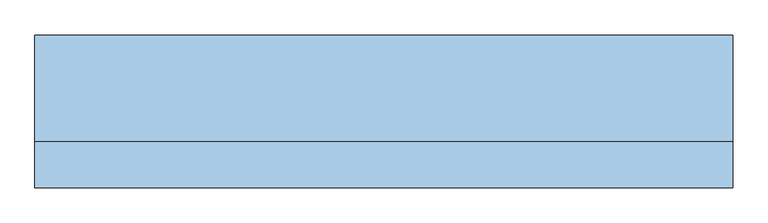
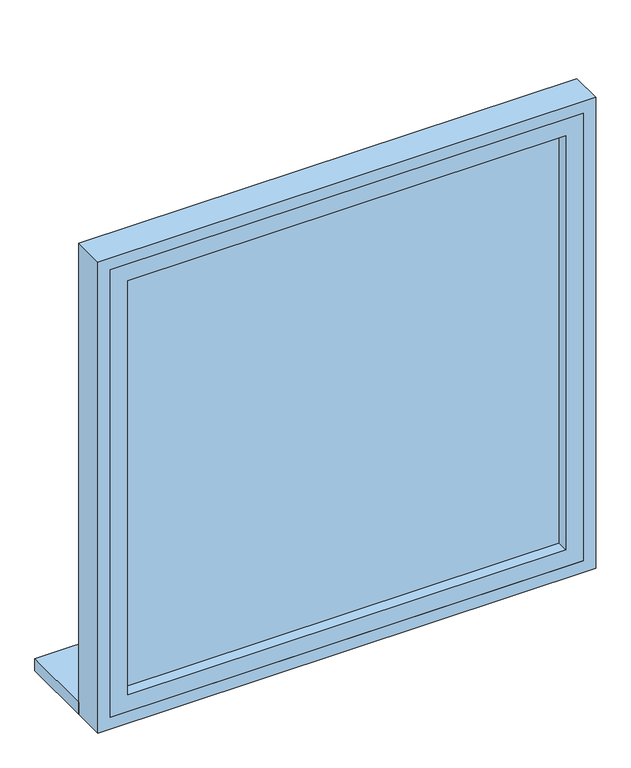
"""IFC4 building model written with IfcOpenShell, lengths in millimetres: window geometry, AT Fenster 1-flügelig drehkipp : 1200/1000 Kellerfenster."""

from ifc_helpers import new_model, si_unit, frame, origin, place, context, project, spatial, polyline, outline, extrude, source, transform, mapped, element, save


def window_b9e24ea9(model_context):
    return source(origin(), model_context, "Body", "SweptSolid", [
        extrude(outline(polyline([(500.0, 26.9623738), (-500.0, 26.9623738), (-500.0, 180.0), (500.0, 180.0), (500.0, 26.9623738)])), frame((0.0, 0.0, 1200.0), z_axis=(0.0, 0.0, 1.0), x_axis=(1.0, 0.0, 0.0)), (0.0, 0.0, 1.0), 25.0),
        extrude(outline(polyline([(2175.0, -475.0), (1225.0, -475.0), (1225.0, 475.0), (2175.0, 475.0), (2175.0, -475.0)]), holes=[polyline([(2140.0, -440.0), (2140.0, 440.0), (1260.0, 440.0), (1260.0, -440.0), (2140.0, -440.0)])]), frame((0.0, -39.0188131, 0.0), z_axis=(0.0, 1.0, 0.0), x_axis=(0.0, 0.0, 1.0)), (0.0, 0.0, 1.0), 50.5),
        extrude(outline(polyline([(1200.0, -500.0), (1200.0, 500.0), (2200.0, 500.0), (2200.0, -500.0), (1200.0, -500.0)]), holes=[polyline([(1225.0, -475.0), (2175.0, -475.0), (2175.0, 475.0), (1225.0, 475.0), (1225.0, -475.0)])]), frame((0.0, -39.0188131, 0.0), z_axis=(0.0, 1.0, 0.0), x_axis=(0.0, 0.0, 1.0)), (0.0, 0.0, 1.0), 65.9811869),
        extrude(outline(polyline([(440.0, -15.5188131), (-440.0, -15.5188131), (-440.0, -13.5188131), (440.0, -13.5188131), (440.0, -15.5188131)])), frame((0.0, 0.0, 1260.0), z_axis=(0.0, 0.0, 1.0), x_axis=(1.0, 0.0, 0.0)), (0.0, 0.0, 1.0), 880.0),
    ])


if __name__ == "__main__":
    model = new_model("IFC4")
    model_context = context("Model", 3, world=origin())
    ifc_project = project(units=[si_unit("LENGTHUNIT", "METRE", prefix="MILLI")], contexts=[model_context])
    site = spatial("IfcSite", under=ifc_project)
    building = spatial("IfcBuilding", under=site)
    placement = place(None, origin())
    window_shape = window_b9e24ea9(model_context)
    element("IfcWindow", 1, ObjectType="AT Fenster 1-flügelig drehkipp : 1200/1000 Kellerfenster", at=placement, inside=building, context=model_context, shape_type="MappedRepresentation", body=[
        mapped(window_shape, transform((0.0, 0.0, 0.0), x_axis=(1.0, 0.0, 0.0), y_axis=(0.0, 1.0, 0.0), z_axis=(0.0, 0.0, 1.0))),
    ])
    save(model, "model.ifc")
